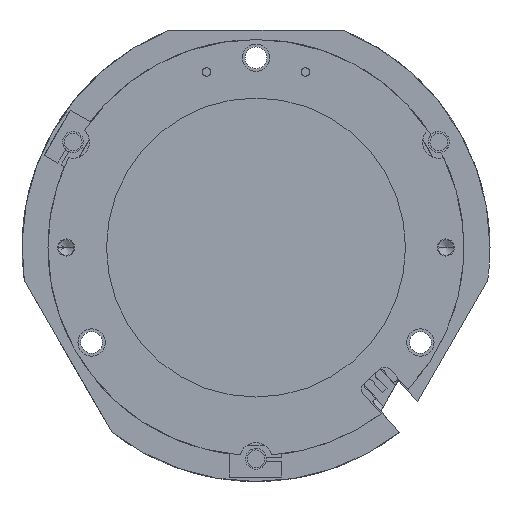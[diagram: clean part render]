
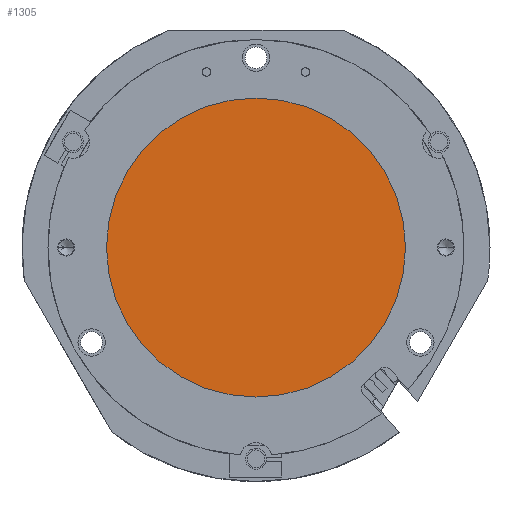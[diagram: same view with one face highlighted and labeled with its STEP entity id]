
A CAD part, front view. The second image highlights one B-rep face of the part: STEP entity #1305.
In plain terms, the highlighted planar face has unit normal (0, -1, 0) as drawn and (0, 1, 0) by its records, which use the part's own axes.
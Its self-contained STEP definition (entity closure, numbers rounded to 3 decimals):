
#185 = AXIS2_PLACEMENT_3D ( 'NONE', #12141, #11301, #4687 ) ;
#237 = DIRECTION ( 'NONE',  ( 0., 1., 0. ) ) ;
#320 = FACE_OUTER_BOUND ( 'NONE', #3139, .T. ) ;
#1305 = ADVANCED_FACE ( 'NONE', ( #320 ), #10343, .T. ) ;
#1419 = VERTEX_POINT ( 'NONE', #3913 ) ;
#1741 = AXIS2_PLACEMENT_3D ( 'NONE', #6786, #9544, #2025 ) ;
#2025 = DIRECTION ( 'NONE',  ( 1., 0., 0. ) ) ;
#3033 = DIRECTION ( 'NONE',  ( 1., 0., 0. ) ) ;
#3139 = EDGE_LOOP ( 'NONE', ( #8049, #9869 ) ) ;
#3838 = AXIS2_PLACEMENT_3D ( 'NONE', #10706, #237, #3033 ) ;
#3913 = CARTESIAN_POINT ( 'NONE',  ( 0., 6.2, 57.5 ) ) ;
#4687 = DIRECTION ( 'NONE',  ( 0., 0., 1. ) ) ;
#5282 = EDGE_CURVE ( 'NONE', #9336, #1419, #10916, .T. ) ;
#6223 = CIRCLE ( 'NONE', #3838, 57.5 ) ;
#6786 = CARTESIAN_POINT ( 'NONE',  ( 0., 6.2, 0. ) ) ;
#8049 = ORIENTED_EDGE ( 'NONE', *, *, #5282, .T. ) ;
#9336 = VERTEX_POINT ( 'NONE', #9485 ) ;
#9485 = CARTESIAN_POINT ( 'NONE',  ( 0., 6.2, -57.5 ) ) ;
#9544 = DIRECTION ( 'NONE',  ( 0., 1., 0. ) ) ;
#9869 = ORIENTED_EDGE ( 'NONE', *, *, #10513, .T. ) ;
#10343 = PLANE ( 'NONE',  #185 ) ;
#10513 = EDGE_CURVE ( 'NONE', #1419, #9336, #6223, .T. ) ;
#10706 = CARTESIAN_POINT ( 'NONE',  ( 0., 6.2, 0. ) ) ;
#10916 = CIRCLE ( 'NONE', #1741, 57.5 ) ;
#11301 = DIRECTION ( 'NONE',  ( 0., 1., 0. ) ) ;
#12141 = CARTESIAN_POINT ( 'NONE',  ( 0., 6.2, 0. ) ) ;
